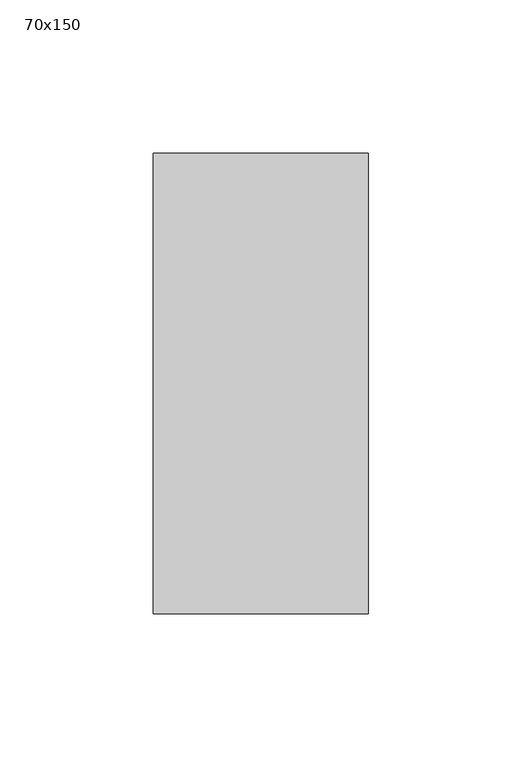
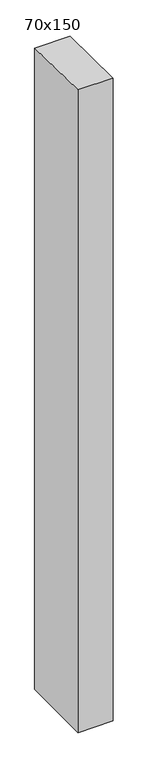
"""IFC4 building model written with IfcOpenShell, lengths in millimetres: member geometry, 長方形のマリオン : 70x150."""

from ifc_helpers import new_model, si_unit, frame, origin, place, context, project, spatial, polyline, outline, extrude, source, transform, mapped, element, save


def member_70x150_728e362a(model_context):
    return source(origin(), model_context, "Body", "SweptSolid", [
        extrude(outline(polyline([(-75.0, 1.6445347), (75.0, -1.6445347), (75.0, -1354.3695227), (-75.0, -1354.3695227), (-75.0, 1.6445347)])), frame((-35.0, 0.0, 0.0), z_axis=(1.0, 0.0, 0.0), x_axis=(0.0, 1.0, 0.0)), (0.0, 0.0, 1.0), 70.0),
    ])


if __name__ == "__main__":
    model = new_model("IFC4")
    model_context = context("Model", 3, world=origin())
    ifc_project = project(units=[si_unit("LENGTHUNIT", "METRE", prefix="MILLI")], contexts=[model_context])
    site = spatial("IfcSite", under=ifc_project)
    building = spatial("IfcBuilding", under=site)
    placement = place(None, origin())
    member_70x150_shape = member_70x150_728e362a(model_context)
    element("IfcMember", 1, ObjectType="長方形のマリオン : 70x150", at=placement, inside=building, context=model_context, shape_type="MappedRepresentation", body=[
        mapped(member_70x150_shape, transform((0.0, 0.0, 0.0), x_axis=(1.0, 0.0, 0.0), y_axis=(0.0, 1.0, 0.0), z_axis=(0.0, 0.0, 1.0))),
    ])
    save(model, "model.ifc")
